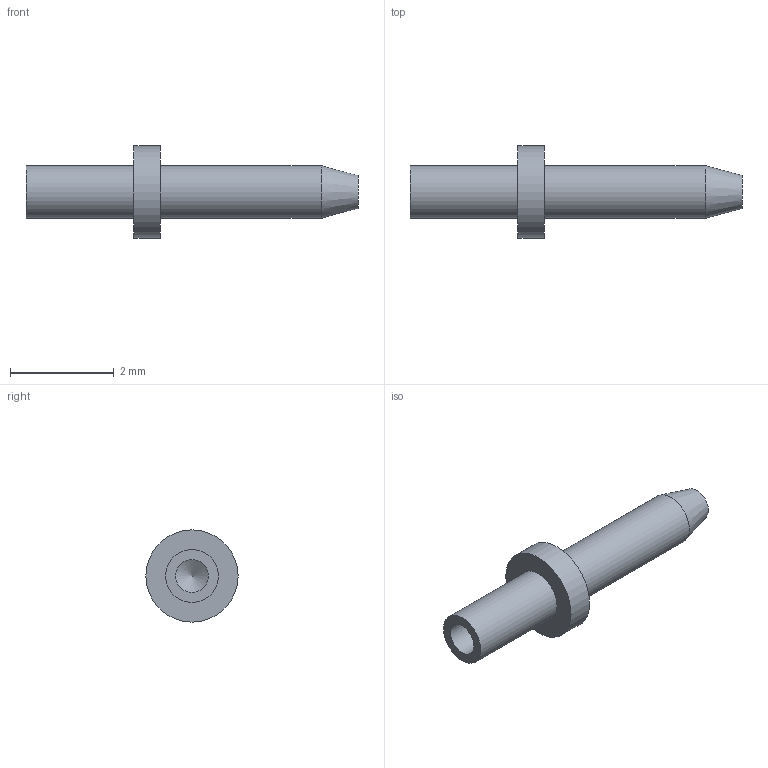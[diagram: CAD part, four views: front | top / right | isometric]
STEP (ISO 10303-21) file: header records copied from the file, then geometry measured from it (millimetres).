
FILE_DESCRIPTION(/* description */ (''),/* implementation_level */ '2;1');
FILE_NAME(/* name */ 'Z:\STEP folder\460297102.ipt.stp',/* time_stamp */ '2016-12-21T13:05:15+00:00',/* author */ ('Paul Karlsons'),/* organization */ (''),/* preprocessor_version */ 'ST-DEVELOPER v15.2',/* originating_system */ 'Autodesk Inventor 2014',/* authorisation */ '');
FILE_SCHEMA (('AUTOMOTIVE_DESIGN { 1 0 10303 214 3 1 1 }'));
Length unit declared in the file: millimetre
Products named in the file (1): 460297102
Bounding box: 6.4 x 1.78 x 1.78 mm (x, y, z)
Volume: 5.5 mm3; surface area: 27.8 mm2
Topology: 1 solids, 1 shells, 10 faces, 16 edges, 10 vertices
Faces by surface type: cylinder 4, plane 4, cone 2
Full cylindrical faces by diameter (mm): 0.635 x1, 1.016 x2, 1.778 x1
Entity records: 215 total; most frequent: DIRECTION 40, CARTESIAN_POINT 29, AXIS2_PLACEMENT_3D 20, EDGE_LOOP 18, ORIENTED_EDGE 18, FACE_BOUND 10, ADVANCED_FACE 10, CIRCLE 9
